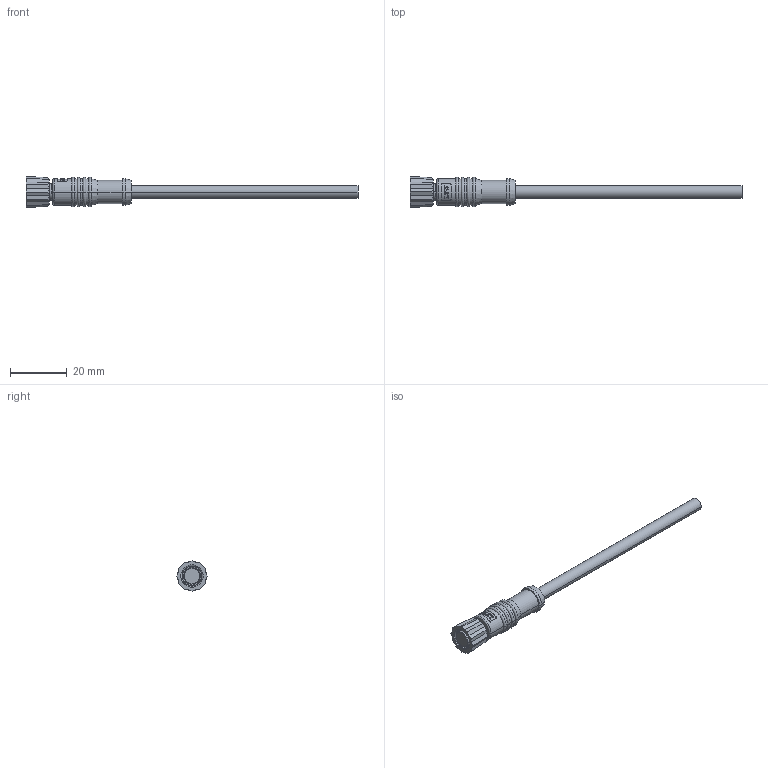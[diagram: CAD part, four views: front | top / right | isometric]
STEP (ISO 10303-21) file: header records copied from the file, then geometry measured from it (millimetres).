
FILE_DESCRIPTION((''),'2;1');
FILE_NAME('8P-03BFFM-SL7BXX_ASM','2021-07-20T',('L100003'),(''),'PRO/ENGINEER BY PARAMETRIC TECHNOLOGY CORPORATION, 2017170','PRO/ENGINEER BY PARAMETRIC TECHNOLOGY CORPORATION, 2017170','');
FILE_SCHEMA(('CONFIG_CONTROL_DESIGN'));
Length unit declared in the file: millimetre
Products named in the file (2): _8P-03BFFM-SL7BXX; 8P-03BFFM-SL7BXX_ASM
Assembly tree (1 placements, depth 2):
  8P-03BFFM-SL7BXX_ASM
    _8P-03BFFM-SL7BXX
Bounding box: 117.2 x 11 x 11 mm (x, y, z)
Volume: 1929.8 mm3; surface area: 3203.8 mm2
Topology: 3 solids, 4 shells, 344 faces, 948 edges, 622 vertices
Faces by surface type: cylinder 148, plane 109, extrusion 46, torus 16, cone 13, bspline 12
Entity records: 17463 total; most frequent: CARTESIAN_POINT 6216, ORIENTED_EDGE 1884, DIRECTION 1647, EDGE_CURVE 948, VERTEX_POINT 622, AXIS2_PLACEMENT_3D 610, PRESENTATION_STYLE_ASSIGNMENT 575, STYLED_ITEM 575
